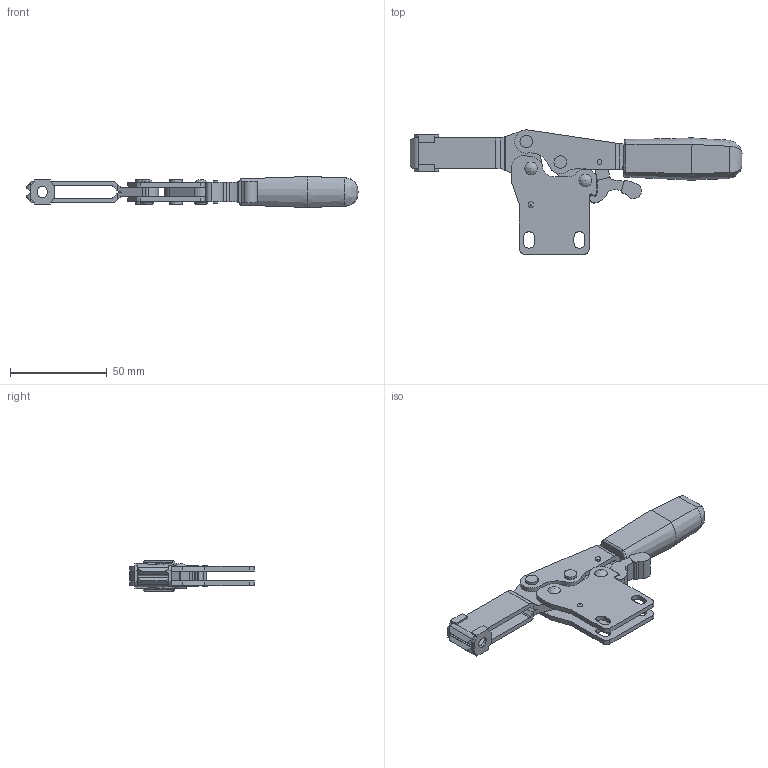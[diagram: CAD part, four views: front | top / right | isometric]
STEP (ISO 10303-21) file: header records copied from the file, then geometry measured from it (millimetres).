
FILE_DESCRIPTION( ( 'STEP AP203' ), '1' );
FILE_NAME( 'C:/Temp/Ganter_Step_05_03_2020/data/2_4/gn_820_4/gn_820_4_st/Toggle clamp GN 820.4-130-NL (closed).stp', '2020-03-13T05:53:24', ( 'License CC BY-ND 4.0' ), ( 'CADENAS' ), ' ', 'PARTsolutions', ' ' );
FILE_SCHEMA( ( 'CONFIG_CONTROL_DESIGN' ) );
Length unit declared in the file: millimetre
Products named in the file (7): Toggle clamp GN 820.4-130-NL (closed); _Toggle clamp GN 820.4-130-NL-1; _Toggle clamp GN 820.4-130-NL (1)-2; _Toggle clamp GN 820.4-130-NL (1)-3; _Toggle clamp GN 820.4-130-NL (1)-4; _Toggle clamp GN 820.4-130-NL-5; _Toggle clamp GN 820.4-130-NL-7
Assembly tree (7 placements, depth 2):
  Toggle clamp GN 820.4-130-NL (closed)
    _Toggle clamp GN 820.4-130-NL-1
    _Toggle clamp GN 820.4-130-NL (1)-2
    _Toggle clamp GN 820.4-130-NL (1)-3
    _Toggle clamp GN 820.4-130-NL (1)-4
    _Toggle clamp GN 820.4-130-NL-5
    _Toggle clamp GN 820.4-130-NL-7  x2
Bounding box: 171.5 x 64.19 x 16 mm (x, y, z)
Volume: 39466.7 mm3; surface area: 24438.7 mm2
Topology: 7 solids, 7 shells, 258 faces, 698 edges, 467 vertices
Faces by surface type: plane 146, cylinder 98, bspline 6, torus 4, cone 4
Full cylindrical faces by diameter (mm): 1.4 x1, 2.5 x5, 4.4 x4, 5.5 x2, 6.5 x10
Entity records: 7865 total; most frequent: CARTESIAN_POINT 1618, DIRECTION 1275, ORIENTED_EDGE 1206, EDGE_CURVE 603, AXIS2_PLACEMENT_3D 459, VERTEX_POINT 418, LINE 357, VECTOR 357
